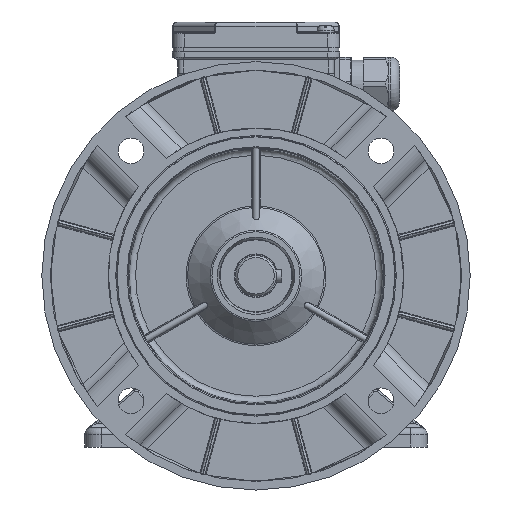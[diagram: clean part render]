
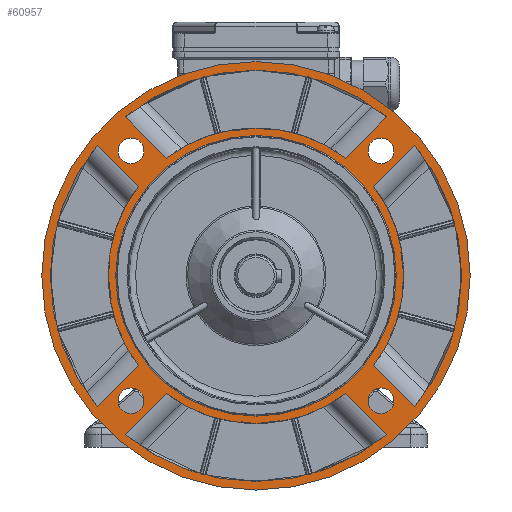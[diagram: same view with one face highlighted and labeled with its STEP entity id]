
A CAD part, left-side view. The second image highlights one B-rep face of the part: STEP entity #60957.
In plain terms, the highlighted planar face has unit normal (-1, 0, 0).
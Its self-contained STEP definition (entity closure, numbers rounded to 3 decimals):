
#3656=LINE('',#86769,#7245);
#3657=LINE('',#86780,#7246);
#3658=LINE('',#86803,#7247);
#3659=LINE('',#86814,#7248);
#3660=LINE('',#86840,#7249);
#3661=LINE('',#86851,#7250);
#3662=LINE('',#86874,#7251);
#3663=LINE('',#86885,#7252);
#7245=VECTOR('',#73247,1000.);
#7246=VECTOR('',#73254,1000.);
#7247=VECTOR('',#73261,1000.);
#7248=VECTOR('',#73268,1000.);
#7249=VECTOR('',#73279,1000.);
#7250=VECTOR('',#73286,1000.);
#7251=VECTOR('',#73293,1000.);
#7252=VECTOR('',#73300,1000.);
#16006=ORIENTED_EDGE('',*,*,#26415,.T.);
#16007=ORIENTED_EDGE('',*,*,#26413,.T.);
#16008=ORIENTED_EDGE('',*,*,#26412,.T.);
#16009=ORIENTED_EDGE('',*,*,#26409,.T.);
#16010=ORIENTED_EDGE('',*,*,#26407,.T.);
#16011=ORIENTED_EDGE('',*,*,#26405,.T.);
#16012=ORIENTED_EDGE('',*,*,#26404,.T.);
#16013=ORIENTED_EDGE('',*,*,#26401,.T.);
#16014=ORIENTED_EDGE('',*,*,#26420,.F.);
#16015=ORIENTED_EDGE('',*,*,#26421,.F.);
#16016=ORIENTED_EDGE('',*,*,#26422,.F.);
#16017=ORIENTED_EDGE('',*,*,#26423,.F.);
#16018=ORIENTED_EDGE('',*,*,#26399,.T.);
#16019=ORIENTED_EDGE('',*,*,#26424,.T.);
#16020=ORIENTED_EDGE('',*,*,#26398,.T.);
#16021=ORIENTED_EDGE('',*,*,#26396,.T.);
#16022=ORIENTED_EDGE('',*,*,#26395,.T.);
#16023=ORIENTED_EDGE('',*,*,#26392,.T.);
#16024=ORIENTED_EDGE('',*,*,#26390,.T.);
#16025=ORIENTED_EDGE('',*,*,#26388,.T.);
#16026=ORIENTED_EDGE('',*,*,#26387,.T.);
#16027=ORIENTED_EDGE('',*,*,#26384,.T.);
#26384=EDGE_CURVE('',#32119,#32118,#35422,.T.);
#26387=EDGE_CURVE('',#32120,#32119,#3656,.T.);
#26388=EDGE_CURVE('',#32121,#32120,#35423,.T.);
#26390=EDGE_CURVE('',#32118,#32121,#3657,.T.);
#26392=EDGE_CURVE('',#32123,#32122,#35424,.T.);
#26395=EDGE_CURVE('',#32124,#32123,#3658,.T.);
#26396=EDGE_CURVE('',#32125,#32124,#35425,.T.);
#26398=EDGE_CURVE('',#32122,#32125,#3659,.T.);
#26399=EDGE_CURVE('',#32126,#32126,#35426,.F.);
#26401=EDGE_CURVE('',#32128,#32127,#35427,.T.);
#26404=EDGE_CURVE('',#32129,#32128,#3660,.T.);
#26405=EDGE_CURVE('',#32130,#32129,#35428,.T.);
#26407=EDGE_CURVE('',#32127,#32130,#3661,.T.);
#26409=EDGE_CURVE('',#32132,#32131,#35429,.T.);
#26412=EDGE_CURVE('',#32133,#32132,#3662,.T.);
#26413=EDGE_CURVE('',#32134,#32133,#35430,.T.);
#26415=EDGE_CURVE('',#32131,#32134,#3663,.T.);
#26420=EDGE_CURVE('',#32139,#32139,#35431,.T.);
#26421=EDGE_CURVE('',#32140,#32140,#35432,.T.);
#26422=EDGE_CURVE('',#32141,#32141,#35433,.T.);
#26423=EDGE_CURVE('',#32142,#32142,#35434,.T.);
#26424=EDGE_CURVE('',#32143,#32143,#35435,.T.);
#32118=VERTEX_POINT('',#86753);
#32119=VERTEX_POINT('',#86755);
#32120=VERTEX_POINT('',#86768);
#32121=VERTEX_POINT('',#86772);
#32122=VERTEX_POINT('',#86787);
#32123=VERTEX_POINT('',#86789);
#32124=VERTEX_POINT('',#86802);
#32125=VERTEX_POINT('',#86806);
#32126=VERTEX_POINT('',#86817);
#32127=VERTEX_POINT('',#86824);
#32128=VERTEX_POINT('',#86826);
#32129=VERTEX_POINT('',#86839);
#32130=VERTEX_POINT('',#86843);
#32131=VERTEX_POINT('',#86858);
#32132=VERTEX_POINT('',#86860);
#32133=VERTEX_POINT('',#86873);
#32134=VERTEX_POINT('',#86877);
#32139=VERTEX_POINT('',#86897);
#32140=VERTEX_POINT('',#86899);
#32141=VERTEX_POINT('',#86901);
#32142=VERTEX_POINT('',#86903);
#32143=VERTEX_POINT('',#86905);
#35422=CIRCLE('',#64501,96.);
#35423=CIRCLE('',#64504,69.);
#35424=CIRCLE('',#64507,96.);
#35425=CIRCLE('',#64510,69.);
#35426=CIRCLE('',#64513,65.5);
#35427=CIRCLE('',#64515,96.);
#35428=CIRCLE('',#64518,69.);
#35429=CIRCLE('',#64521,96.);
#35430=CIRCLE('',#64524,69.);
#35431=CIRCLE('',#64528,6.);
#35432=CIRCLE('',#64529,6.);
#35433=CIRCLE('',#64530,6.);
#35434=CIRCLE('',#64531,6.);
#35435=CIRCLE('',#64532,100.);
#37741=EDGE_LOOP('',(#16006,#16007,#16008,#16009));
#37742=EDGE_LOOP('',(#16010,#16011,#16012,#16013));
#37743=EDGE_LOOP('',(#16014));
#37744=EDGE_LOOP('',(#16015));
#37745=EDGE_LOOP('',(#16016));
#37746=EDGE_LOOP('',(#16017));
#37747=EDGE_LOOP('',(#16018));
#37748=EDGE_LOOP('',(#16019));
#37749=EDGE_LOOP('',(#16020,#16021,#16022,#16023));
#37750=EDGE_LOOP('',(#16024,#16025,#16026,#16027));
#40761=FACE_BOUND('',#37741,.T.);
#40762=FACE_BOUND('',#37742,.T.);
#40763=FACE_BOUND('',#37743,.T.);
#40764=FACE_BOUND('',#37744,.T.);
#40765=FACE_BOUND('',#37745,.T.);
#40766=FACE_BOUND('',#37746,.T.);
#40767=FACE_BOUND('',#37747,.T.);
#40768=FACE_BOUND('',#37748,.T.);
#40769=FACE_BOUND('',#37749,.T.);
#40770=FACE_BOUND('',#37750,.T.);
#43034=PLANE('',#64527);
#60957=ADVANCED_FACE('',(#40761,#40762,#40763,#40764,#40765,#40766,#40767,
#40768,#40769,#40770),#43034,.T.);
#64501=AXIS2_PLACEMENT_3D('',#86754,#73243,#73244);
#64504=AXIS2_PLACEMENT_3D('',#86771,#73250,#73251);
#64507=AXIS2_PLACEMENT_3D('',#86788,#73257,#73258);
#64510=AXIS2_PLACEMENT_3D('',#86805,#73264,#73265);
#64513=AXIS2_PLACEMENT_3D('',#86816,#73271,#73272);
#64515=AXIS2_PLACEMENT_3D('',#86825,#73275,#73276);
#64518=AXIS2_PLACEMENT_3D('',#86842,#73282,#73283);
#64521=AXIS2_PLACEMENT_3D('',#86859,#73289,#73290);
#64524=AXIS2_PLACEMENT_3D('',#86876,#73296,#73297);
#64527=AXIS2_PLACEMENT_3D('',#86895,#73307,#73308);
#64528=AXIS2_PLACEMENT_3D('',#86896,#73309,#73310);
#64529=AXIS2_PLACEMENT_3D('',#86898,#73311,#73312);
#64530=AXIS2_PLACEMENT_3D('',#86900,#73313,#73314);
#64531=AXIS2_PLACEMENT_3D('',#86902,#73315,#73316);
#64532=AXIS2_PLACEMENT_3D('',#86904,#73317,#73318);
#73243=DIRECTION('',(1.,0.,0.));
#73244=DIRECTION('',(0.,0.,-1.));
#73247=DIRECTION('',(0.,0.707,0.707));
#73250=DIRECTION('',(-1.,0.,0.));
#73251=DIRECTION('',(0.,0.,-1.));
#73254=DIRECTION('',(0.,0.707,-0.707));
#73257=DIRECTION('',(1.,0.,0.));
#73258=DIRECTION('',(0.,0.,1.));
#73261=DIRECTION('',(0.,-0.707,-0.707));
#73264=DIRECTION('',(-1.,0.,0.));
#73265=DIRECTION('',(0.,0.,1.));
#73268=DIRECTION('',(0.,-0.707,0.707));
#73271=DIRECTION('',(-1.,0.,0.));
#73272=DIRECTION('',(0.,0.,-1.));
#73275=DIRECTION('',(1.,0.,0.));
#73276=DIRECTION('',(0.,1.,0.));
#73279=DIRECTION('',(0.,-0.707,0.707));
#73282=DIRECTION('',(-1.,0.,0.));
#73283=DIRECTION('',(0.,1.,0.));
#73286=DIRECTION('',(0.,0.707,0.707));
#73289=DIRECTION('',(1.,0.,0.));
#73290=DIRECTION('',(0.,-1.,0.));
#73293=DIRECTION('',(0.,0.707,-0.707));
#73296=DIRECTION('',(-1.,0.,0.));
#73297=DIRECTION('',(0.,-1.,0.));
#73300=DIRECTION('',(0.,-0.707,-0.707));
#73307=DIRECTION('',(-1.,0.,0.));
#73308=DIRECTION('',(0.,0.,-1.));
#73309=DIRECTION('',(-1.,0.,0.));
#73310=DIRECTION('',(0.,-1.,0.));
#73311=DIRECTION('',(-1.,0.,0.));
#73312=DIRECTION('',(0.,-1.,0.));
#73313=DIRECTION('',(-1.,0.,0.));
#73314=DIRECTION('',(0.,-1.,0.));
#73315=DIRECTION('',(-1.,0.,0.));
#73316=DIRECTION('',(0.,-1.,0.));
#73317=DIRECTION('',(-1.,0.,0.));
#73318=DIRECTION('',(0.,0.,-1.));
#86753=CARTESIAN_POINT('',(-44.3,-60.96,74.161));
#86754=CARTESIAN_POINT('',(-44.3,0.,0.));
#86755=CARTESIAN_POINT('',(-44.3,60.96,74.161));
#86768=CARTESIAN_POINT('',(-44.3,41.741,54.943));
#86769=CARTESIAN_POINT('',(-44.3,60.009,73.211));
#86771=CARTESIAN_POINT('',(-44.3,0.,0.));
#86772=CARTESIAN_POINT('',(-44.3,-41.741,54.943));
#86780=CARTESIAN_POINT('',(-44.3,-40.403,53.605));
#86787=CARTESIAN_POINT('',(-44.3,60.96,-74.161));
#86788=CARTESIAN_POINT('',(-44.3,0.,0.));
#86789=CARTESIAN_POINT('',(-44.3,-60.96,-74.161));
#86802=CARTESIAN_POINT('',(-44.3,-41.741,-54.943));
#86803=CARTESIAN_POINT('',(-44.3,-60.009,-73.211));
#86805=CARTESIAN_POINT('',(-44.3,0.,0.));
#86806=CARTESIAN_POINT('',(-44.3,41.741,-54.943));
#86814=CARTESIAN_POINT('',(-44.3,40.403,-53.605));
#86816=CARTESIAN_POINT('',(-44.3,0.,0.));
#86817=CARTESIAN_POINT('',(-44.3,0.,-65.5));
#86824=CARTESIAN_POINT('',(-44.3,-74.161,-60.96));
#86825=CARTESIAN_POINT('',(-44.3,0.,0.));
#86826=CARTESIAN_POINT('',(-44.3,-74.161,60.96));
#86839=CARTESIAN_POINT('',(-44.3,-54.943,41.741));
#86840=CARTESIAN_POINT('',(-44.3,-73.211,60.009));
#86842=CARTESIAN_POINT('',(-44.3,0.,0.));
#86843=CARTESIAN_POINT('',(-44.3,-54.943,-41.741));
#86851=CARTESIAN_POINT('',(-44.3,-53.605,-40.403));
#86858=CARTESIAN_POINT('',(-44.3,74.161,60.96));
#86859=CARTESIAN_POINT('',(-44.3,0.,0.));
#86860=CARTESIAN_POINT('',(-44.3,74.161,-60.96));
#86873=CARTESIAN_POINT('',(-44.3,54.943,-41.741));
#86874=CARTESIAN_POINT('',(-44.3,73.211,-60.009));
#86876=CARTESIAN_POINT('',(-44.3,0.,0.));
#86877=CARTESIAN_POINT('',(-44.3,54.943,41.741));
#86885=CARTESIAN_POINT('',(-44.3,53.605,40.403));
#86895=CARTESIAN_POINT('',(-44.3,0.,-65.));
#86896=CARTESIAN_POINT('',(-44.3,58.336,-58.336));
#86897=CARTESIAN_POINT('',(-44.3,52.336,-58.336));
#86898=CARTESIAN_POINT('',(-44.3,-58.336,-58.336));
#86899=CARTESIAN_POINT('',(-44.3,-64.336,-58.336));
#86900=CARTESIAN_POINT('',(-44.3,-58.336,58.336));
#86901=CARTESIAN_POINT('',(-44.3,-64.336,58.336));
#86902=CARTESIAN_POINT('',(-44.3,58.336,58.336));
#86903=CARTESIAN_POINT('',(-44.3,52.336,58.336));
#86904=CARTESIAN_POINT('',(-44.3,0.,0.));
#86905=CARTESIAN_POINT('',(-44.3,0.,-100.));
